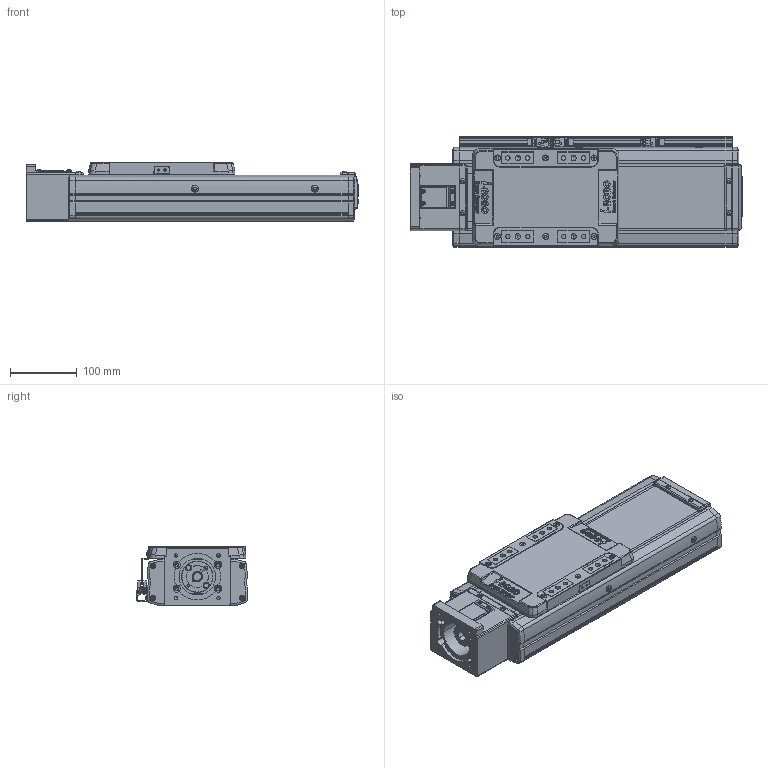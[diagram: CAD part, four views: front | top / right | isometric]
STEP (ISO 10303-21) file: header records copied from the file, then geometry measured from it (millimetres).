
FILE_DESCRIPTION(('STEP AP214'),'1');
FILE_NAME('Z:/Web/3D/SAN150/2013.04 (STP.)/SAN150ㅁㅁ-150S+3SL.stp','2013-05-08T02:39:41',(' '),(' '),'Spatial InterOp 3D',' ',' ');
FILE_SCHEMA(('automotive_design'));
Length unit declared in the file: millimetre
Products named in the file (93): SLBL-SAN150; SLCV-SAN150; FHCS M4.0 x 8.0; BHCS M4.0 x 10.0; SFX-SAN150; RRCV-SAN150; FRBL-SAN150; Spacer; RN15; FRCV-SAN150; Screw 20; BASE-SAN150-000L ; SUS COVER; 스크루 : Round - M5.0 x 6.0; BHCS M3.0 x 6.0; SSFX-SAN65; CPLCV-SAN65; SDWA47C(2); SDWA47C(3-1); SDWA47C(3); SDWA47C(1); SDWA47C(4); SDWA47C(5); MTHZ-SAN150-80; M3.0 x 6.0; SRL-16x17-360L; SGD-SAN150; EE-SX674; SBK-SX674-352; 스크루 : Round - M3.0 x 6.0
Bounding box: 499 x 166 x 90 mm (x, y, z)
Volume: 3435765.1 mm3; surface area: 719762.1 mm2
Topology: 93 solids, 93 shells, 3246 faces, 8430 edges, 5472 vertices
Faces by surface type: plane 1553, cylinder 1207, cone 365, sphere 76, bspline 29, torus 16
Entity records: 130332 total; most frequent: CARTESIAN_POINT 20487, DIRECTION 18235, ORIENTED_EDGE 16668, EDGE_CURVE 8334, AXIS2_PLACEMENT_3D 6731, VERTEX_POINT 5472, LINE 4773, VECTOR 4773
